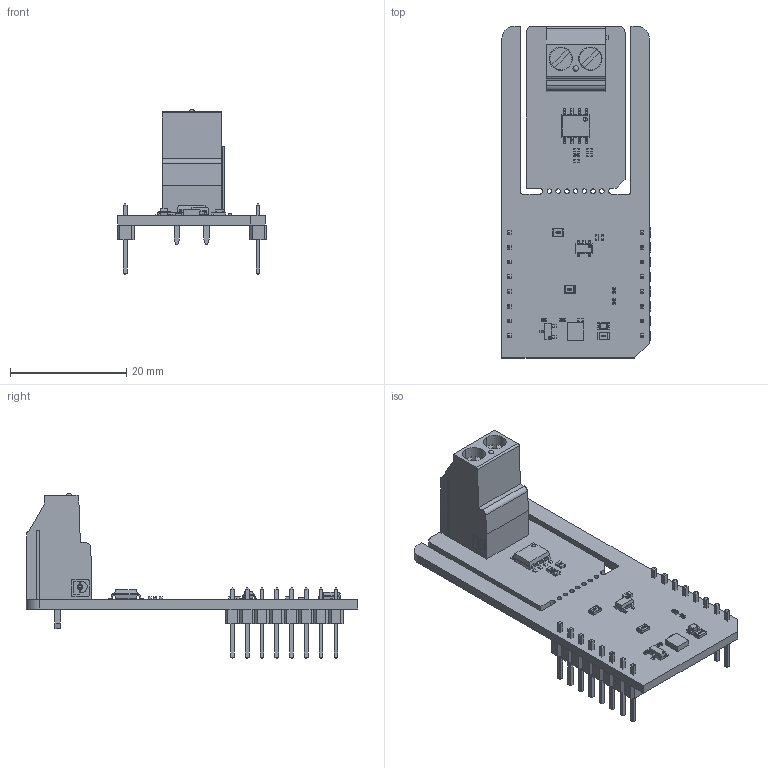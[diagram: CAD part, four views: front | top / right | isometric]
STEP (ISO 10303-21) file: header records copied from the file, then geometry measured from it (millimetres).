
FILE_DESCRIPTION(('Open CASCADE Model'),'2;1');
FILE_NAME('Open CASCADE Shape Model','2025-10-09T10:37:00',('Author'),( 'Open CASCADE'),'Open CASCADE STEP processor 6.8','Open CASCADE 6.8' ,'Unknown');
FILE_SCHEMA(('AUTOMOTIVE_DESIGN { 1 0 10303 214 1 1 1 1 }'));
Length unit declared in the file: millimetre
Products named in the file (41): PCB; Board; R6; User_Library-R_0402; JP2; User_Library-R_0805; C7; User_Library-SMD_CAPACITOR0402; C4; U3; User_Library-SOT23-5-2; U2; User_Library-SOIC-8-1; TB1; 1711725; mkds_3-2-5.08; R5; R3; JP1; C6; C5; C3; C2; MBD1; Header_1x8; Free-Models; 1240637040; User_Library-PinHeaderX5-1_PinHeaderX5_Body_1; User_Library-PinHeaderX5-1_PinHeaderX5_Pins_1; U1; 917355816; Extruded; Q1; SOT23-3; R4; C1; R2; LD1; led_0805_green; R1
Assembly tree (54 placements, depth 7):
  PCB
    Board
    R6
      User_Library-R_0402
    JP2
      User_Library-R_0805
    C7
      User_Library-SMD_CAPACITOR0402
    C4
      User_Library-SMD_CAPACITOR0402
    U3
      User_Library-SOT23-5-2
    U2
      User_Library-SOIC-8-1
    TB1
      1711725
        mkds_3-2-5.08
    R5
      User_Library-R_0402
    R3
      User_Library-R_0402
    JP1
      User_Library-R_0805
    C6
      User_Library-SMD_CAPACITOR0402
    C5
      User_Library-SMD_CAPACITOR0402
    C3
      User_Library-SMD_CAPACITOR0402
    C2
      User_Library-SMD_CAPACITOR0402
    MBD1
      Header_1x8  x2
        PCB
          Free-Models
            1240637040  x2
              User_Library-PinHeaderX5-1_PinHeaderX5_Body_1
              User_Library-PinHeaderX5-1_PinHeaderX5_Pins_1
    U1
      917355816
        Extruded
    Q1
      SOT23-3
    R4
      User_Library-R_0402
    C1
      User_Library-SMD_CAPACITOR0402
    R2
      User_Library-R_0402
    LD1
      led_0805_green
    R1
      User_Library-R_0805
Bounding box: 25.78 x 57.15 x 28.41 mm (x, y, z)
Volume: 4295 mm3; surface area: 5977.7 mm2
Topology: 54 solids, 54 shells, 1977 faces, 4957 edges, 3121 vertices
Faces by surface type: plane 1414, bspline 256, cylinder 240, sphere 67
Full cylindrical faces by diameter (mm): 0.8 x7
Entity records: 33913 total; most frequent: CARTESIAN_POINT 8810, ORIENTED_EDGE 4286, DIRECTION 3977, EDGE_CURVE 2143, LINE 1697, VECTOR 1697, VERTEX_POINT 1373, AXIS2_PLACEMENT_3D 1140
